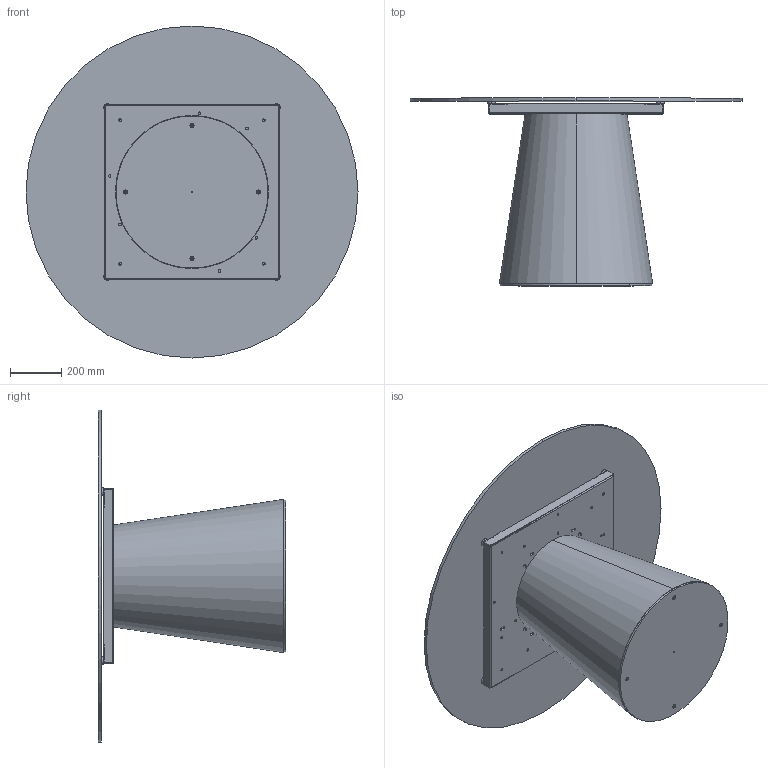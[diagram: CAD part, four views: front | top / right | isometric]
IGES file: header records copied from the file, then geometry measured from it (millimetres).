
Start section: SolidWorks IGES file using analytic representation for surfaces
Global section: file name: Y:\eforma\TECNICO\SOLIDWORKS\E-FORMA\1-TAVOLI\TEO\08 modelli 3D web\TO05G_Teo_d.130_Glass.IGS; native system: SolidWorks 2022; preprocessor: SolidWorks 2022; author: eforma.tech; date: 240802.111659; units: millimetre
Bounding box: 1300 x 735.19 x 1300 mm (x, y, z)
Volume: 46192880.6 mm3; surface area: 7130369.4 mm2
Topology: 20 solids, 20 shells, 648 faces, 1650 edges, 1040 vertices
Faces by surface type: revolution 326, plane 322
